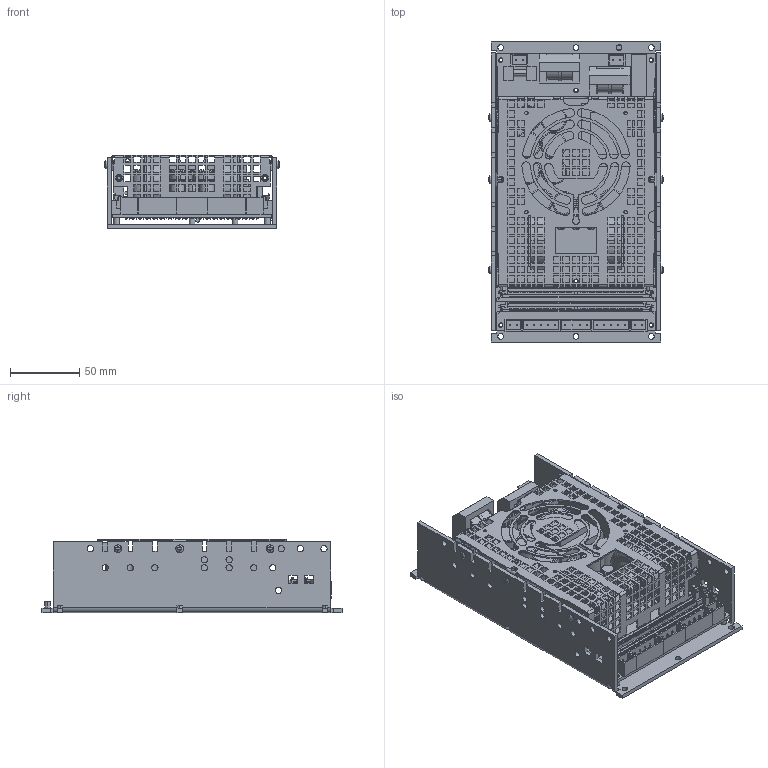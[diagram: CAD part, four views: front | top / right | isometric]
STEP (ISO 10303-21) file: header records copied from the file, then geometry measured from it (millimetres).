
FILE_DESCRIPTION((''),'2;1');
FILE_NAME('POWERSOFT_DM1000_MECH3D_ASM','2012-01-19T',('carlo'),(''),'PRO/ENGINEER BY PARAMETRIC TECHNOLOGY CORPORATION, 2010480','PRO/ENGINEER BY PARAMETRIC TECHNOLOGY CORPORATION, 2010480','');
FILE_SCHEMA(('CONFIG_CONTROL_DESIGN'));
Products named in the file (13): VI000051; SO-M3-4; ME000156-394; ME000156-310_ASM; SIMM_SOCKET; SM000544-422; SM000544-282_ASM; FH-M4-8; SO-M3-8; ME000313-366; ME000313-296_ASM; ASSEM1_ASM; POWERSOFT_DM1000_MECH3D_ASM
Assembly tree (26 placements, depth 4):
  POWERSOFT_DM1000_MECH3D_ASM
    ASSEM1_ASM
      VI000051  x6
      ME000156-310_ASM
        SO-M3-4  x2
        ME000156-394
      SM000544-282_ASM
        SIMM_SOCKET  x2
        SM000544-422
      ME000313-296_ASM
        FH-M4-8
        SO-M3-8  x8
        ME000313-366
Bounding box: 126.27 x 216 x 52.65 mm (x, y, z)
Volume: 413611.1 mm3; surface area: 241742.7 mm2
Topology: 22 solids, 22 shells, 5378 faces, 14547 edges, 9663 vertices
Faces by surface type: plane 4353, cylinder 927, torus 68, cone 14, sphere 12, bspline 4
Entity records: 113351 total; most frequent: CARTESIAN_POINT 19977, ORIENTED_EDGE 19500, DIRECTION 18465, EDGE_CURVE 9750, VECTOR 8183, LINE 8183, VERTEX_POINT 6456, AXIS2_PLACEMENT_3D 5141
